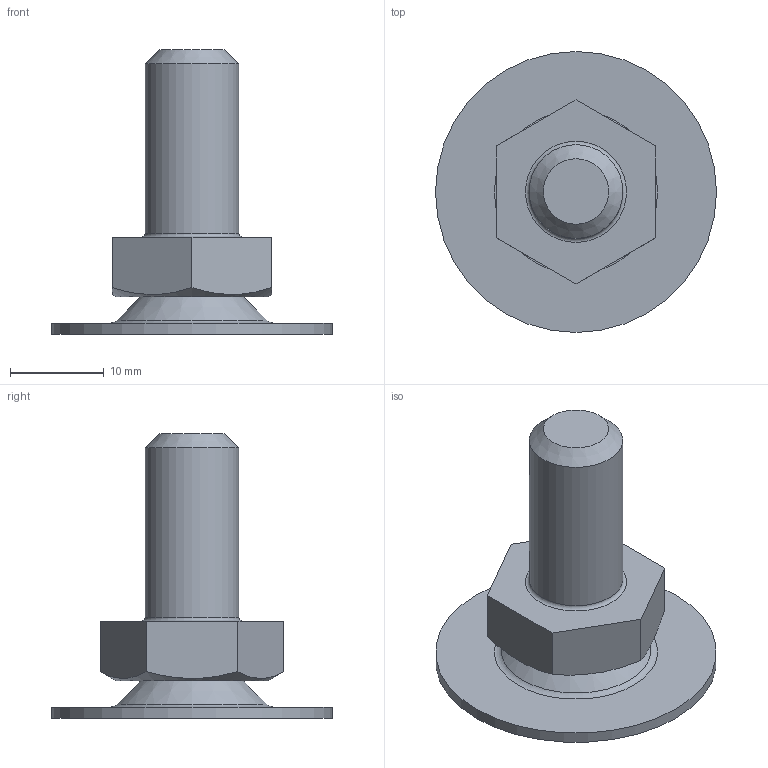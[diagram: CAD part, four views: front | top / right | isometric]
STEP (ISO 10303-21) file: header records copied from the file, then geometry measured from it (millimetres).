
FILE_DESCRIPTION(('STEP AP203'), '1');
FILE_NAME('A00050.1031016', '', ('UNSPECIFIED'), ('UNSPECIFIED'), 'C3D Converter', 'C3D Toolkit', '');
FILE_SCHEMA(('CONFIG_CONTROL_DESIGN'));
Length unit declared in the file: millimetre
Products named in the file (4): A00050.1031020; A00050.1030
Assembly tree (3 placements, depth 2):
  A00050.1031020
    A00050.1030
    (unnamed)
    (unnamed)
Bounding box: 30 x 30 x 30.38 mm (x, y, z)
Volume: 4027.1 mm3; surface area: 3498.5 mm2
Topology: 3 solids, 3 shells, 58 faces, 130 edges, 82 vertices
Faces by surface type: plane 28, torus 8, bspline 8, cone 7, cylinder 6, sphere 1
Full cylindrical faces by diameter (mm): 3.3 x1, 4 x1, 4.5 x1, 8 x1, 10 x1, 30 x1
Entity records: 2171 total; most frequent: CARTESIAN_POINT 784, DIRECTION 242, ORIENTED_EDGE 214, EDGE_CURVE 107, AXIS2_PLACEMENT_3D 95, EDGE_LOOP 86, VERTEX_POINT 81, ADVANCED_FACE 58
